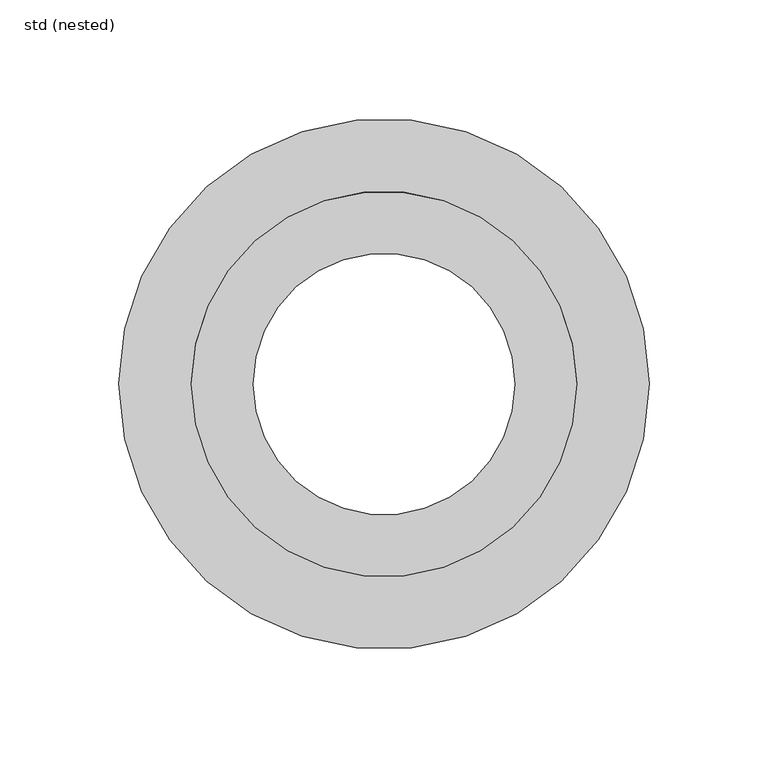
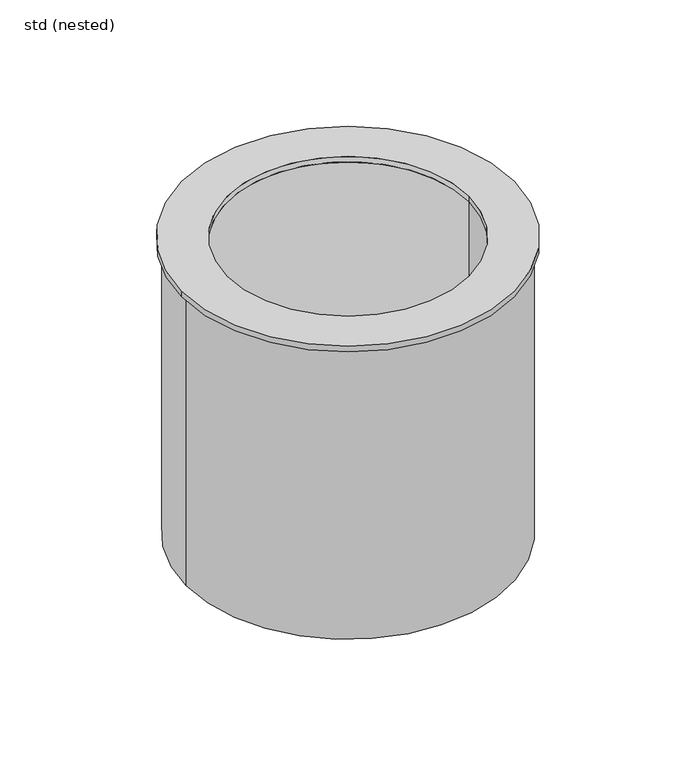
"""IFC4 building model written with IfcOpenShell, lengths in millimetres: damper geometry, ZZZ_do_not_use_PIA_GEN_UN_fire resistant kit for hygienic gullies_ACO : std (nested)."""

from ifc_helpers import new_model, si_unit, point, frame, origin, origin_with_axes, origin_2d, place, context, project, spatial, polyline, circle_curve, trimmed, segment, composite_curve, outline, extrude, source, transform, mapped, element, save
from ifc_brep_helpers import plane_surface, cylinder_surface, revolved_surface, advanced_brep


def std_nested_744eeef4(model_context):
    return source(origin(), model_context, "Body", "SolidModel", [
        advanced_brep(
        [(-108.5, 0.0, -210.0), (108.5, 0.0, -210.0), (-55.0, 0.0, -210.0), (55.0, 0.0, -210.0), (-108.5, 0.0, -4.0), (108.5, 0.0, -4.0), (-81.0, 0.0, -4.0), (81.0, 0.0, -4.0), (-81.0, 0.0, -206.0), (81.0, 0.0, -206.0), (108.5, 0.0, -206.0), (-108.5, 0.0, -206.0), (-55.0, 0.0, -206.0), (55.0, 0.0, -206.0)],
        [
            (0, 1, circle_curve(frame((0.0, 0.0, -210.0), z_axis=(0.0, 0.0, -1.0), x_axis=(1.0, 0.0, 0.0)), 108.5)),
            (1, 0, circle_curve(frame((0.0, 0.0, -210.0), z_axis=(0.0, 0.0, -1.0), x_axis=(1.0, 0.0, 0.0)), 108.5)),
            (2, 3, circle_curve(frame((0.0, 0.0, -210.0), z_axis=(0.0, 0.0, 1.0), x_axis=(1.0, 0.0, 0.0)), 55.0)),
            (3, 2, circle_curve(frame((0.0, 0.0, -210.0), z_axis=(0.0, 0.0, 1.0), x_axis=(1.0, 0.0, 0.0)), 55.0)),
            (4, 5, circle_curve(frame((0.0, 0.0, -4.0), z_axis=(0.0, 0.0, 1.0), x_axis=(1.0, 0.0, 0.0)), 108.5)),
            (5, 4, circle_curve(frame((0.0, 0.0, -4.0), z_axis=(0.0, 0.0, 1.0), x_axis=(1.0, 0.0, 0.0)), 108.5)),
            (6, 7, circle_curve(frame((0.0, 0.0, -4.0), z_axis=(0.0, 0.0, -1.0), x_axis=(1.0, 0.0, 0.0)), 81.0)),
            (7, 6, circle_curve(frame((0.0, 0.0, -4.0), z_axis=(0.0, 0.0, -1.0), x_axis=(1.0, 0.0, 0.0)), 81.0)),
            (6, 8),
            (8, 9, circle_curve(frame((0.0, 0.0, -206.0), z_axis=(0.0, 0.0, -1.0), x_axis=(1.0, 0.0, 0.0)), 81.0)),
            (9, 7),
            (9, 8, circle_curve(frame((0.0, 0.0, -206.0), z_axis=(0.0, 0.0, -1.0), x_axis=(1.0, 0.0, 0.0)), 81.0)),
            (1, 10),
            (10, 5),
            (4, 11),
            (11, 0),
            (12, 13, circle_curve(frame((0.0, 0.0, -206.0), z_axis=(0.0, 0.0, -1.0), x_axis=(1.0, 0.0, 0.0)), 55.0)),
            (13, 12, circle_curve(frame((0.0, 0.0, -206.0), z_axis=(0.0, 0.0, -1.0), x_axis=(1.0, 0.0, 0.0)), 55.0)),
            (3, 13),
            (12, 2),
        ],
        [
            plane_surface(frame((81.0, 0.0, -210.0), z_axis=(0.0, 0.0, -1.0), x_axis=(0.0, 1.0, 0.0))),
            plane_surface(frame((81.0, 0.0, -4.0), z_axis=(0.0, 0.0, 1.0), x_axis=(0.0, -1.0, 0.0))),
            revolved_surface(polyline([(81.0, 0.0, -206.0), (81.0, 0.0, -4.0)]), (0.0, 0.0, -210.0), (0.0, 0.0, -1.0)),
            cylinder_surface(origin_with_axes(), 108.5),
            plane_surface(frame((108.5, 0.0, -206.0), z_axis=(0.0, 0.0, 1.0), x_axis=(0.0, 1.0, 0.0))),
            revolved_surface(polyline([(55.0, 0.0, -210.0), (55.0, 0.0, -206.0)]), (0.0, 0.0, 0.0), (0.0, 0.0, -1.0)),
        ],
        [
            (0, [[1, 2], [3, 4]]),
            (1, [[5, 6], [7, 8]]),
            (2, [[-7, 9, 10, 11]]),
            (2, [[-8, -11, 12, -9]]),
            (3, [[-2, 13, 14, -5, 15, 16]]),
            (3, [[-1, -16, -15, -6, -14, -13]]),
            (4, [[-10, -12], [17, 18]]),
            (5, [[-4, 19, -17, 20]]),
            (5, [[-3, -20, -18, -19]]),
        ],
    ),
        extrude(outline(composite_curve([segment(trimmed(circle_curve(origin_2d(), 111.5), [point((-111.5, 0.0))], [point((111.5, 0.0))], False, "CARTESIAN"), True, "CONTINUOUS"), segment(trimmed(circle_curve(origin_2d(), 111.5), [point((111.5, 0.0))], [point((-111.5, 0.0))], False, "CARTESIAN"), True, "CONTINUOUS")], self_intersect=False), holes=[composite_curve([segment(trimmed(circle_curve(origin_2d(), 81.0), [point((-81.0, 0.0))], [point((81.0, 0.0))], True, "CARTESIAN"), True, "CONTINUOUS"), segment(trimmed(circle_curve(origin_2d(), 81.0), [point((81.0, 0.0))], [point((-81.0, 0.0))], True, "CARTESIAN"), True, "CONTINUOUS")], self_intersect=False)]), frame((0.0, 0.0, -4.0), z_axis=(0.0, 0.0, 1.0), x_axis=(1.0, 0.0, 0.0)), (0.0, 0.0, 1.0), 4.0),
    ])


if __name__ == "__main__":
    model = new_model("IFC4")
    model_context = context("Model", 3, world=origin())
    ifc_project = project(units=[si_unit("LENGTHUNIT", "METRE", prefix="MILLI")], contexts=[model_context])
    site = spatial("IfcSite", under=ifc_project)
    building = spatial("IfcBuilding", under=site)
    placement = place(None, origin())
    std_nested_shape = std_nested_744eeef4(model_context)
    element("IfcDamper", 1, ObjectType="ZZZ_do_not_use_PIA_GEN_UN_fire resistant kit for hygienic gullies_ACO : std (nested)", at=placement, inside=building, context=model_context, shape_type="MappedRepresentation", body=[
        mapped(std_nested_shape, transform((0.0, 0.0, 0.0), x_axis=(1.0, 0.0, 0.0), y_axis=(0.0, 1.0, 0.0), z_axis=(0.0, 0.0, 1.0))),
    ])
    save(model, "model.ifc")
